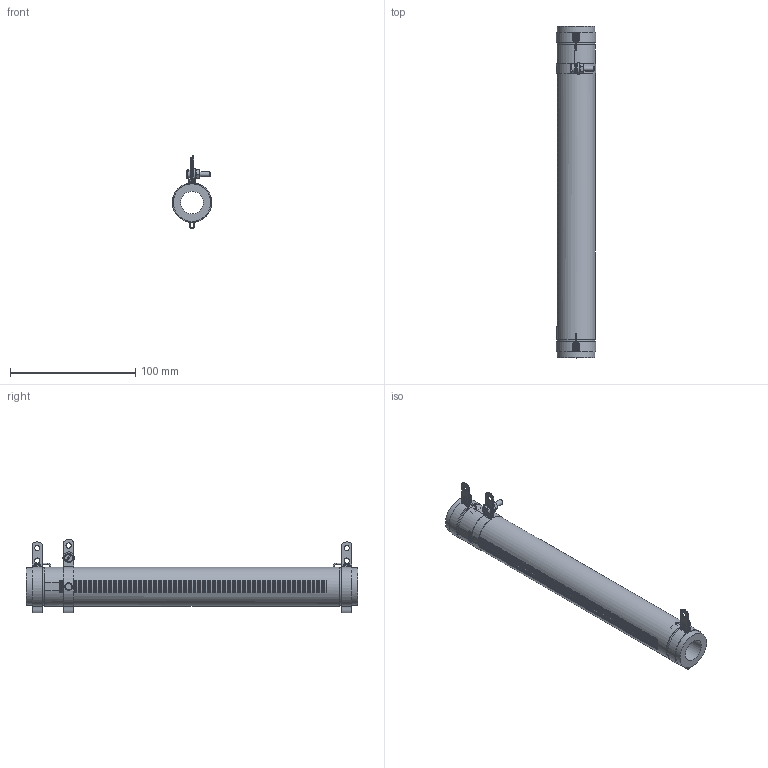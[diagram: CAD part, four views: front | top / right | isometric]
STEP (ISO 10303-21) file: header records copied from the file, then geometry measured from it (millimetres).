
FILE_DESCRIPTION(/* description */ (''),/* implementation_level */ '2;1');
FILE_NAME(/* name */ 'C:\_Vault\Dati\CATALOGO\RC-RS\RCR-RSR TC\RSR TC 260.stp',/* time_stamp */ '2014-03-20T11:33:15+01:00',/* author */ ('stefano'),/* organization */ (''),/* preprocessor_version */ 'ST-DEVELOPER v15.2',/* originating_system */ 'Autodesk Inventor 2014',/* authorisation */ '');
FILE_SCHEMA (('AUTOMOTIVE_DESIGN { 1 0 10303 214 3 1 1 }'));
Length unit declared in the file: millimetre
Products named in the file (1): RSR TC 260
Bounding box: 31.57 x 265 x 58.36 mm (x, y, z)
Volume: 132996.7 mm3; surface area: 45783.6 mm2
Topology: 1 solids, 7 shells, 831 faces, 2421 edges, 1606 vertices
Faces by surface type: plane 595, cylinder 196, cone 16, torus 12, bspline 12
Full cylindrical faces by diameter (mm): 0.4 x2, 0.8 x6, 3.571 x1, 4 x2, 4.2 x9, 4.3 x1, 9 x1, 18 x1, 30 x2, 31 x1
Entity records: 29369 total; most frequent: CARTESIAN_POINT 6291, ORIENTED_EDGE 4734, DIRECTION 4664, EDGE_CURVE 2367, AXIS2_PLACEMENT_3D 1636, VERTEX_POINT 1585, LINE 1392, VECTOR 1392
